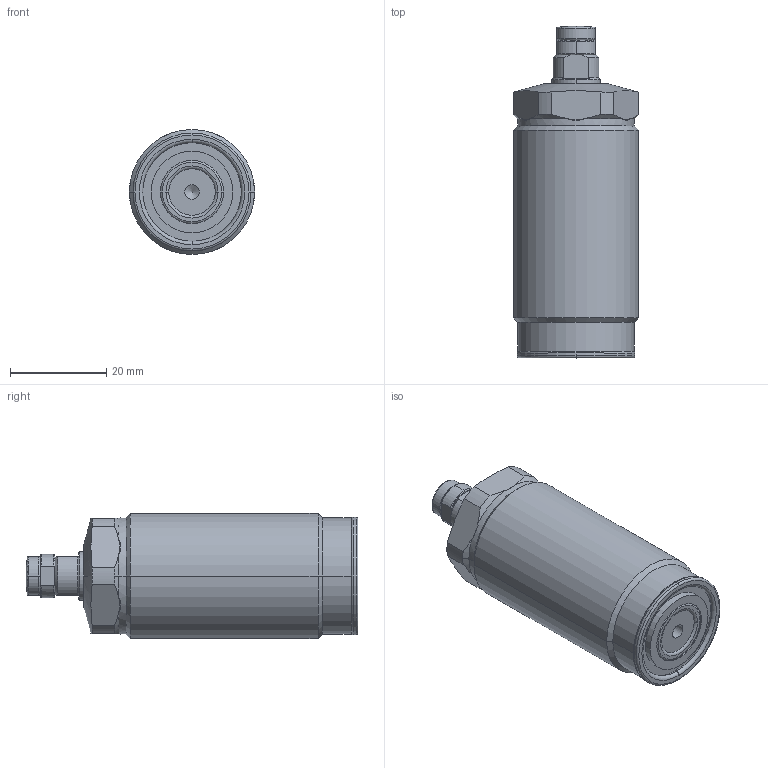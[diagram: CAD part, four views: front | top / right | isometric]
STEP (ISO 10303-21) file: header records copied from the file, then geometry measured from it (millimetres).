
FILE_DESCRIPTION(/* description */ (''),/* implementation_level */ '2;1');
FILE_NAME(/* name */ 'TSC26-M.stp',/* time_stamp */ '2025-01-10T15:30:31+08:00',/* author */ (''),/* organization */ (''),/* preprocessor_version */ 'ST-DEVELOPER v16.7',/* originating_system */ 'SIEMENS PLM Software NX 12.0',/* authorisation */ '');
FILE_SCHEMA (('AUTOMOTIVE_DESIGN { 1 0 10303 214 3 1 1 1 }'));
Length unit declared in the file: millimetre
Products named in the file (11): XLD-M6SP_pad166; XLD-M6SP_pin167; XLD-M6SP_contactbolt168; XLD-M6SP_Oring169; XLD-M6_Oring736170; TSC26-M-05171; TSC26-M-02172; TSC26-M-01173; TSC26-M-005; TSC26-M-04175; TSC26-M_stp
Assembly tree (10 placements, depth 3):
  TSC26-M_stp
    TSC26-M-01173
    TSC26-M-02172
    TSC26-M-04175
      XLD-M6_Oring736170
    TSC26-M-05171
    TSC26-M-005
      XLD-M6SP_Oring169
      XLD-M6SP_contactbolt168
      XLD-M6SP_pin167
      XLD-M6SP_pad166
Bounding box: 26 x 69 x 26 mm (x, y, z)
Volume: 28840.8 mm3; surface area: 8029.5 mm2
Topology: 8 solids, 8 shells, 201 faces, 460 edges, 281 vertices
Faces by surface type: cylinder 65, plane 45, torus 44, cone 43, sphere 4
Full cylindrical faces by diameter (mm): 3 x1
Entity records: 6375 total; most frequent: CARTESIAN_POINT 1484, DIRECTION 1077, ORIENTED_EDGE 914, AXIS2_PLACEMENT_3D 468, EDGE_CURVE 457, VERTEX_POINT 281, CIRCLE 256, EDGE_LOOP 223
